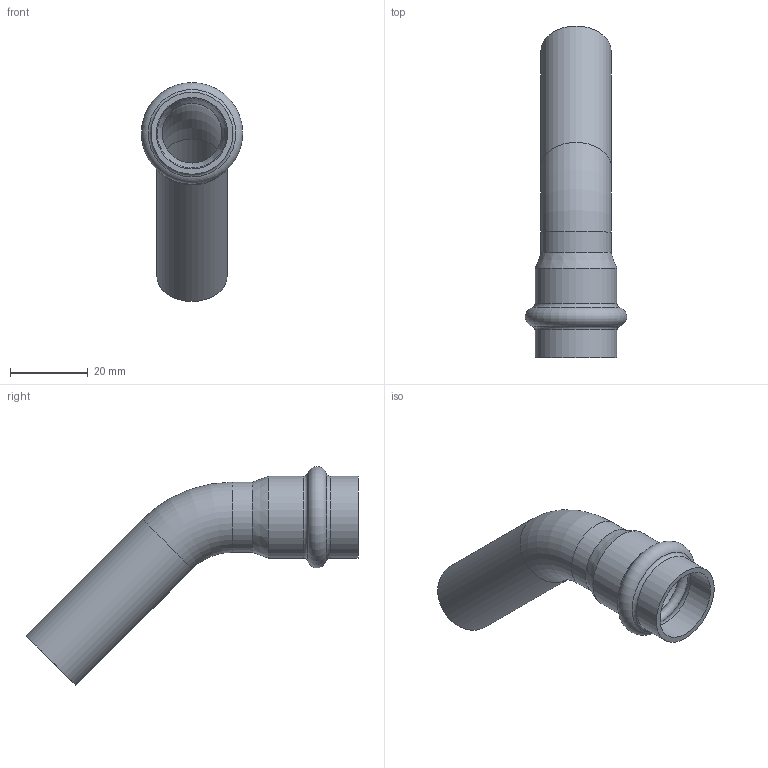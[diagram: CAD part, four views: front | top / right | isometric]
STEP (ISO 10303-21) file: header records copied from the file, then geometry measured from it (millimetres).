
FILE_DESCRIPTION(('STEP AP203'), '1');
FILE_NAME('覆.302661.010.000 捘 - VTi.958.I.001818', '', ('UNSPECIFIED'), ('UNSPECIFIED'), 'C3D Converter', 'C3D Toolkit', '');
FILE_SCHEMA(('CONFIG_CONTROL_DESIGN'));
Length unit declared in the file: millimetre
Products named in the file (1): ВР.302661.010.000 СБ
Bounding box: 25.99 x 85.13 x 56.13 mm (x, y, z)
Volume: 7528.3 mm3; surface area: 11120.5 mm2
Topology: 1 solids, 2 shells, 22 faces, 48 edges, 28 vertices
Faces by surface type: torus 10, cylinder 8, plane 2, cone 2
Full cylindrical faces by diameter (mm): 15.3 x2, 18 x2, 18.3 x2, 21 x2
Entity records: 550 total; most frequent: DIRECTION 102, CARTESIAN_POINT 79, ORIENTED_EDGE 56, AXIS2_PLACEMENT_3D 51, EDGE_LOOP 44, FACE_OUTER_BOUND 28, EDGE_CURVE 28, VERTEX_POINT 28
